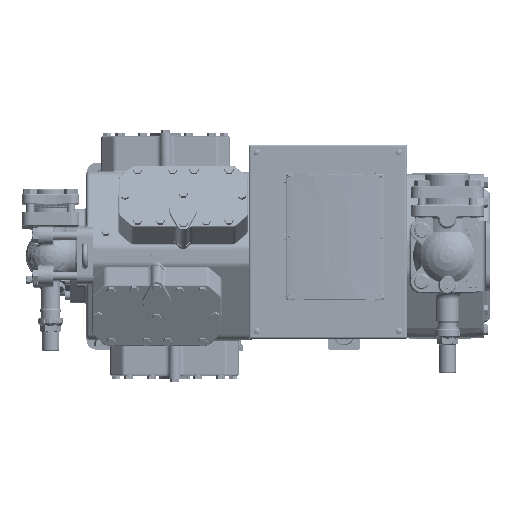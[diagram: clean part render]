
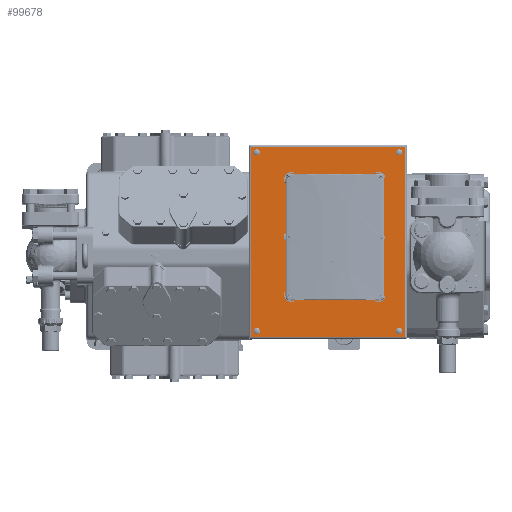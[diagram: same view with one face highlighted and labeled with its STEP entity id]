
A CAD part, top view. The second image highlights one B-rep face of the part: STEP entity #99678.
In plain terms, the highlighted planar face has unit normal (0, 0, 1).
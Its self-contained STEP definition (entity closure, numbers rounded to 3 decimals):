
#72050=LINE('',#390897,#77904);
#72051=LINE('',#390900,#77905);
#72052=LINE('',#390902,#77906);
#72053=LINE('',#390904,#77907);
#77904=VECTOR('',#240258,1.);
#77905=VECTOR('',#240259,1.);
#77906=VECTOR('',#240260,1.);
#77907=VECTOR('',#240261,1.);
#90786=PLANE('',#211379);
#99678=ADVANCED_FACE('',(#104660,#104661,#104662,#104663,#104664,#104665,
#104666,#104667,#104668,#104669,#104670),#90786,.T.);
#104660=FACE_BOUND('',#113666,.T.);
#104661=FACE_BOUND('',#113667,.T.);
#104662=FACE_BOUND('',#113668,.T.);
#104663=FACE_BOUND('',#113669,.T.);
#104664=FACE_BOUND('',#113670,.T.);
#104665=FACE_BOUND('',#113671,.T.);
#104666=FACE_BOUND('',#113672,.T.);
#104667=FACE_BOUND('',#113673,.T.);
#104668=FACE_BOUND('',#113674,.T.);
#104669=FACE_BOUND('',#113675,.T.);
#104670=FACE_BOUND('',#113676,.T.);
#113666=EDGE_LOOP('',(#151750));
#113667=EDGE_LOOP('',(#151751));
#113668=EDGE_LOOP('',(#151752));
#113669=EDGE_LOOP('',(#151753));
#113670=EDGE_LOOP('',(#151754));
#113671=EDGE_LOOP('',(#151755));
#113672=EDGE_LOOP('',(#151756));
#113673=EDGE_LOOP('',(#151757));
#113674=EDGE_LOOP('',(#151758));
#113675=EDGE_LOOP('',(#151759));
#113676=EDGE_LOOP('',(#151760,#151761,#151762,#151763));
#151750=ORIENTED_EDGE('',*,*,#192176,.F.);
#151751=ORIENTED_EDGE('',*,*,#192177,.F.);
#151752=ORIENTED_EDGE('',*,*,#192178,.F.);
#151753=ORIENTED_EDGE('',*,*,#192179,.F.);
#151754=ORIENTED_EDGE('',*,*,#192180,.F.);
#151755=ORIENTED_EDGE('',*,*,#192181,.F.);
#151756=ORIENTED_EDGE('',*,*,#192182,.T.);
#151757=ORIENTED_EDGE('',*,*,#192183,.T.);
#151758=ORIENTED_EDGE('',*,*,#192184,.T.);
#151759=ORIENTED_EDGE('',*,*,#192185,.T.);
#151760=ORIENTED_EDGE('',*,*,#192186,.F.);
#151761=ORIENTED_EDGE('',*,*,#192187,.F.);
#151762=ORIENTED_EDGE('',*,*,#192188,.F.);
#151763=ORIENTED_EDGE('',*,*,#192189,.F.);
#171322=VERTEX_POINT('',#390878);
#171323=VERTEX_POINT('',#390880);
#171324=VERTEX_POINT('',#390882);
#171325=VERTEX_POINT('',#390884);
#171326=VERTEX_POINT('',#390886);
#171327=VERTEX_POINT('',#390888);
#171328=VERTEX_POINT('',#390890);
#171329=VERTEX_POINT('',#390892);
#171330=VERTEX_POINT('',#390894);
#171331=VERTEX_POINT('',#390896);
#171332=VERTEX_POINT('',#390898);
#171333=VERTEX_POINT('',#390899);
#171334=VERTEX_POINT('',#390901);
#171335=VERTEX_POINT('',#390903);
#192176=EDGE_CURVE('',#171322,#171322,#200133,.T.);
#192177=EDGE_CURVE('',#171323,#171323,#200134,.T.);
#192178=EDGE_CURVE('',#171324,#171324,#200135,.T.);
#192179=EDGE_CURVE('',#171325,#171325,#200136,.T.);
#192180=EDGE_CURVE('',#171326,#171326,#200137,.T.);
#192181=EDGE_CURVE('',#171327,#171327,#200138,.T.);
#192182=EDGE_CURVE('',#171328,#171328,#200139,.T.);
#192183=EDGE_CURVE('',#171329,#171329,#200140,.T.);
#192184=EDGE_CURVE('',#171330,#171330,#200141,.T.);
#192185=EDGE_CURVE('',#171331,#171331,#200142,.T.);
#192186=EDGE_CURVE('',#171332,#171333,#72050,.T.);
#192187=EDGE_CURVE('',#171334,#171332,#72051,.T.);
#192188=EDGE_CURVE('',#171335,#171334,#72052,.T.);
#192189=EDGE_CURVE('',#171333,#171335,#72053,.T.);
#200133=CIRCLE('',#211369,2.5);
#200134=CIRCLE('',#211370,2.5);
#200135=CIRCLE('',#211371,2.5);
#200136=CIRCLE('',#211372,2.5);
#200137=CIRCLE('',#211373,2.5);
#200138=CIRCLE('',#211374,2.5);
#200139=CIRCLE('',#211375,3.5);
#200140=CIRCLE('',#211376,3.5);
#200141=CIRCLE('',#211377,3.5);
#200142=CIRCLE('',#211378,3.5);
#211369=AXIS2_PLACEMENT_3D('',#390877,#240238,#240239);
#211370=AXIS2_PLACEMENT_3D('',#390879,#240240,#240241);
#211371=AXIS2_PLACEMENT_3D('',#390881,#240242,#240243);
#211372=AXIS2_PLACEMENT_3D('',#390883,#240244,#240245);
#211373=AXIS2_PLACEMENT_3D('',#390885,#240246,#240247);
#211374=AXIS2_PLACEMENT_3D('',#390887,#240248,#240249);
#211375=AXIS2_PLACEMENT_3D('',#390889,#240250,#240251);
#211376=AXIS2_PLACEMENT_3D('',#390891,#240252,#240253);
#211377=AXIS2_PLACEMENT_3D('',#390893,#240254,#240255);
#211378=AXIS2_PLACEMENT_3D('',#390895,#240256,#240257);
#211379=AXIS2_PLACEMENT_3D('',#390905,#240262,#240263);
#240238=DIRECTION('',(0.,0.,1.));
#240239=DIRECTION('',(0.,1.,0.));
#240240=DIRECTION('',(0.,0.,1.));
#240241=DIRECTION('',(0.,1.,0.));
#240242=DIRECTION('',(0.,0.,1.));
#240243=DIRECTION('',(0.,1.,0.));
#240244=DIRECTION('',(0.,0.,1.));
#240245=DIRECTION('',(0.,1.,0.));
#240246=DIRECTION('',(0.,0.,1.));
#240247=DIRECTION('',(0.,1.,0.));
#240248=DIRECTION('',(0.,0.,1.));
#240249=DIRECTION('',(0.,1.,0.));
#240250=DIRECTION('',(0.,0.,-1.));
#240251=DIRECTION('',(0.,1.,0.));
#240252=DIRECTION('',(0.,0.,-1.));
#240253=DIRECTION('',(0.,1.,0.));
#240254=DIRECTION('',(0.,0.,-1.));
#240255=DIRECTION('',(0.,1.,0.));
#240256=DIRECTION('',(0.,0.,-1.));
#240257=DIRECTION('',(0.,1.,0.));
#240258=DIRECTION('',(0.,1.,0.));
#240259=DIRECTION('',(-1.,0.,0.));
#240260=DIRECTION('',(0.,-1.,0.));
#240261=DIRECTION('',(1.,0.,0.));
#240262=DIRECTION('',(0.,0.,1.));
#240263=DIRECTION('',(0.,1.,0.));
#390877=CARTESIAN_POINT('',(269.926,-25.661,353.667));
#390878=CARTESIAN_POINT('',(269.926,-23.161,353.667));
#390879=CARTESIAN_POINT('',(92.926,-25.661,353.667));
#390880=CARTESIAN_POINT('',(92.926,-23.161,353.667));
#390881=CARTESIAN_POINT('',(269.926,90.339,353.667));
#390882=CARTESIAN_POINT('',(269.926,92.839,353.667));
#390883=CARTESIAN_POINT('',(92.926,90.339,353.667));
#390884=CARTESIAN_POINT('',(92.926,92.839,353.667));
#390885=CARTESIAN_POINT('',(269.926,206.339,353.667));
#390886=CARTESIAN_POINT('',(269.926,208.839,353.667));
#390887=CARTESIAN_POINT('',(92.926,206.339,353.667));
#390888=CARTESIAN_POINT('',(92.926,208.839,353.667));
#390889=CARTESIAN_POINT('',(304.926,-90.661,353.667));
#390890=CARTESIAN_POINT('',(304.926,-87.161,353.667));
#390891=CARTESIAN_POINT('',(30.926,-90.661,353.667));
#390892=CARTESIAN_POINT('',(30.926,-87.161,353.667));
#390893=CARTESIAN_POINT('',(304.926,253.339,353.667));
#390894=CARTESIAN_POINT('',(304.926,256.839,353.667));
#390895=CARTESIAN_POINT('',(30.926,253.339,353.667));
#390896=CARTESIAN_POINT('',(30.926,256.839,353.667));
#390897=CARTESIAN_POINT('',(19.926,268.339,353.667));
#390898=CARTESIAN_POINT('',(19.926,-101.661,353.667));
#390899=CARTESIAN_POINT('',(19.926,264.339,353.667));
#390900=CARTESIAN_POINT('',(15.926,-101.661,353.667));
#390901=CARTESIAN_POINT('',(315.926,-101.661,353.667));
#390902=CARTESIAN_POINT('',(315.926,-105.661,353.667));
#390903=CARTESIAN_POINT('',(315.926,264.339,353.667));
#390904=CARTESIAN_POINT('',(167.926,264.339,353.667));
#390905=CARTESIAN_POINT('',(167.926,81.339,353.667));
